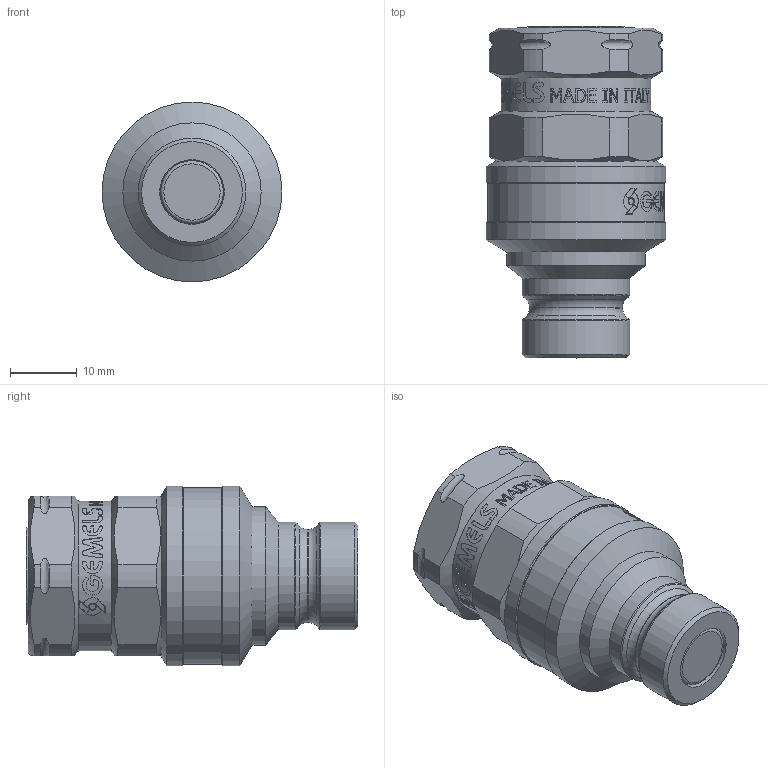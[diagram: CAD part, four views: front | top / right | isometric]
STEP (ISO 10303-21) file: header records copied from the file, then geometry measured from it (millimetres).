
FILE_DESCRIPTION(/* description */ (''),/* implementation_level */ '2;1');
FILE_NAME(/* name */ 'NC05N010000.stp',/* time_stamp */ '2024-08-09T15:00:04+02:00',/* author */ ('nicholas.facchinetti'),/* organization */ (''),/* preprocessor_version */ 'ST-DEVELOPER v19.2',/* originating_system */ 'Autodesk Inventor 2024',/* authorisation */ '');
FILE_SCHEMA (('AUTOMOTIVE_DESIGN { 1 0 10303 214 3 1 1 }'));
Length unit declared in the file: millimetre
Products named in the file (1): Parte9
Bounding box: 27 x 49.8 x 27 mm (x, y, z)
Volume: 18581.7 mm3; surface area: 5764.9 mm2
Topology: 1 solids, 4 shells, 1101 faces, 3127 edges, 2076 vertices
Faces by surface type: bspline 716, plane 271, cylinder 86, cone 16, torus 12
Full cylindrical faces by diameter (mm): 9.7 x1, 10.719 x1, 11 x1, 12 x1, 13.95 x1, 14.5 x1, 16.15 x2, 20.75 x1, 22 x1, 22.3 x1, 22.5 x1, 26.5 x1, 27 x2
Entity records: 47676 total; most frequent: CARTESIAN_POINT 22647, ORIENTED_EDGE 6254, EDGE_CURVE 3127, DIRECTION 2773, VERTEX_POINT 2076, B_SPLINE_CURVE_WITH_KNOTS 1492, LINE 1221, VECTOR 1221
